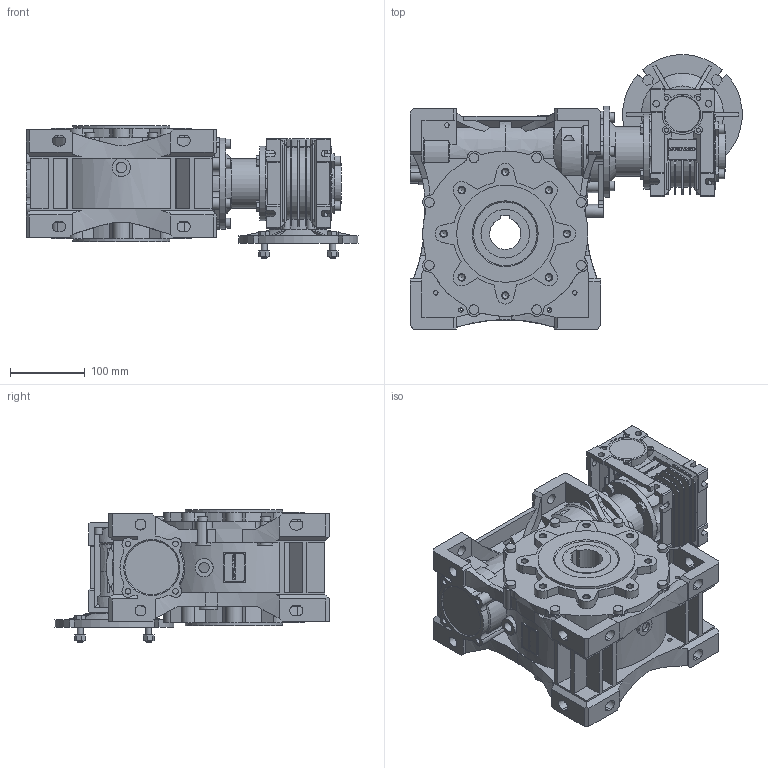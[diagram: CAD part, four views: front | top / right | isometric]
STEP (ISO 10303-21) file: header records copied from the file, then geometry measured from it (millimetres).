
FILE_DESCRIPTION(/* description */ ('STEP AP214'),/* implementation_level */ '2;1');
FILE_NAME(/* name */ 'NMRVP-NMRVP 050-110 100 (10x10) AS1 160x14 25 NO 42 NO NO - - NO - - - NO NO - --(--------)',/* time_stamp */ '2024-10-24T15:42:43+02:00',/* author */ ('License CC BY-ND 4.0'),/* organization */ ('CADENAS'),/* preprocessor_version */ 'ST-DEVELOPER v19.3',/* originating_system */ 'PARTsolutions',/* authorisation */ ' ');
FILE_SCHEMA (('AUTOMOTIVE_DESIGN {1 0 10303 214 3 1 1}'));
Length unit declared in the file: millimetre
Products named in the file (11): NMRVP-NMRVP 050-110 100 (10x10) AS1 160x14 25 NO 42 NO NO - - NO - - 
- NO NO - --(--------); W.110.01.M; 110-42 (155); W.110.14.28.M-p; 050-110-TRA; W.050.01.M; 050-25 (92); VB 050-14 (14)-p; 5071 B5; Corona 50-p; 110-65
Assembly tree (10 placements, depth 2):
  NMRVP-NMRVP 050-110 100 (10x10) AS1 160x14 25 NO 42 NO NO - - NO - - 
- NO NO - --(--------)
    W.110.01.M
    110-42 (155)
    W.110.14.28.M-p
    050-110-TRA
    W.050.01.M
    050-25 (92)
    VB 050-14 (14)-p
    5071 B5
    Corona 50-p
    110-65
Bounding box: 444.27 x 367.27 x 177.5 mm (x, y, z)
Volume: 8857375.4 mm3; surface area: 941075.6 mm2
Topology: 10 solids, 19 shells, 2221 faces, 5935 edges, 3903 vertices
Faces by surface type: plane 1326, cylinder 746, cone 144, torus 5
Full cylindrical faces by diameter (mm): 3.775 x3, 5.55 x4, 6 x10, 6.647 x8, 7.45 x12, 8 x8, 8.376 x16, 8.8 x8, 10 x14, 13 x18, 14 x8, 14.5 x2, 16 x1, 24 x2, 28 x2, 34 x1, 39 x1, 40 x2, 41 x1, 47 x2, 55 x2, 56 x1, 63 x1, 65 x3, 66 x1, 70 x3, 76 x1, 90 x3, 100 x2, 107 x1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
Entity records: 83877 total; most frequent: CARTESIAN_POINT 13155, DIRECTION 11538, ORIENTED_EDGE 11310, EDGE_CURVE 5655, AXIS2_PLACEMENT_3D 4044, VERTEX_POINT 3861, LINE 3450, VECTOR 3450
